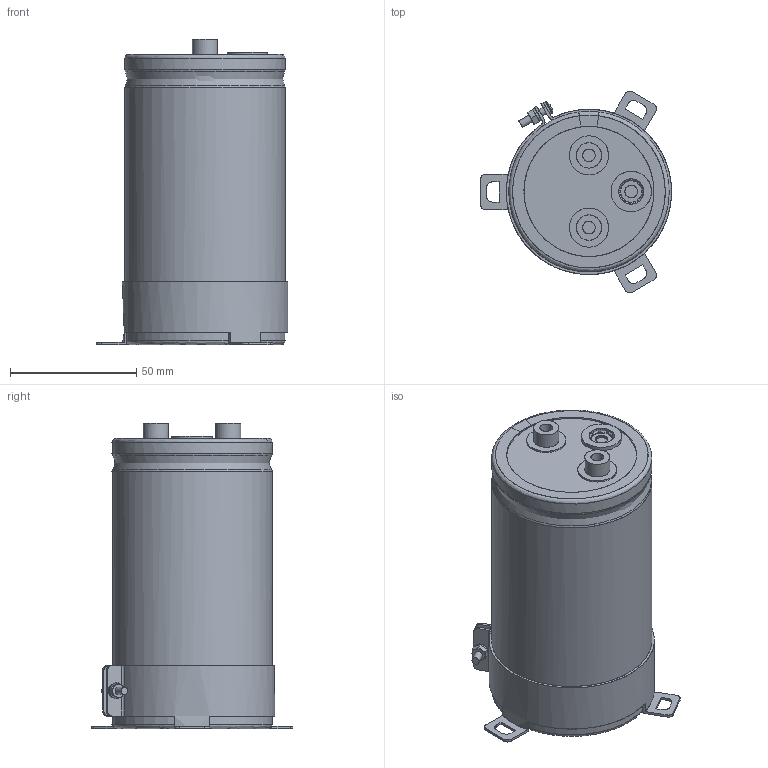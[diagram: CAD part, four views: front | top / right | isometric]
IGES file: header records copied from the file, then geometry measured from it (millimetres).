
Start section: JAMA-IS VERSION  1.0
Bounding box: 75.75 x 80.01 x 121 mm (x, y, z)
Surface area: 89906.8 mm2 (no closed solid volume)
Topology: 0 solids, 0 shells, 259 faces, 4436 edges, 4409 vertices
Faces by surface type: bspline 259
